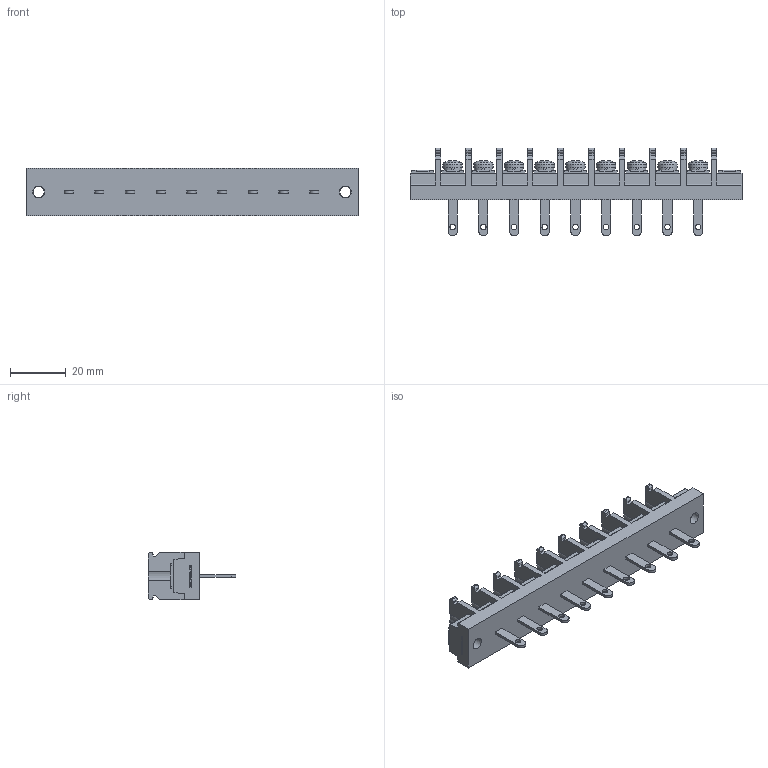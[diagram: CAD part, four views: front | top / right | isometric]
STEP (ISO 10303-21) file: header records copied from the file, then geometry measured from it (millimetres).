
FILE_DESCRIPTION(/* description */ ('Alibre Inc.'),/* implementation_level */ '2;1');
FILE_NAME(/* name */ 'export0',/* time_stamp */ '2015-10-19T19:17:27+09:00',/* author */ (''),/* organization */ (''),/* preprocessor_version */ 'ST-DEVELOPER v14',/* originating_system */ 'Alibre',/* authorisation */ '');
FILE_SCHEMA (('CONFIG_CONTROL_DESIGN'));
Length unit declared in the file: centimetre
Products named in the file (1): ID_1
Bounding box: 119 x 31.5 x 17 mm (x, y, z)
Volume: 21842.2 mm3; surface area: 12852.7 mm2
Topology: 1 solids, 1 shells, 1128 faces, 3149 edges, 2094 vertices
Faces by surface type: plane 786, cylinder 175, bspline 104, cone 36, torus 18, sphere 9
Full cylindrical faces by diameter (mm): 2 x9, 4 x11, 4.2 x2, 6.5 x9, 7 x9
Entity records: 35012 total; most frequent: CARTESIAN_POINT 7442, ORIENTED_EDGE 6124, DIRECTION 4628, EDGE_CURVE 3062, VECTOR 2152, LINE 2152, VERTEX_POINT 2056, AXIS2_PLACEMENT_3D 1626
